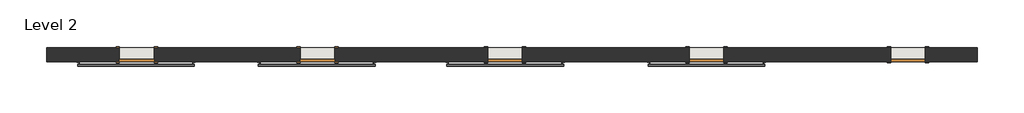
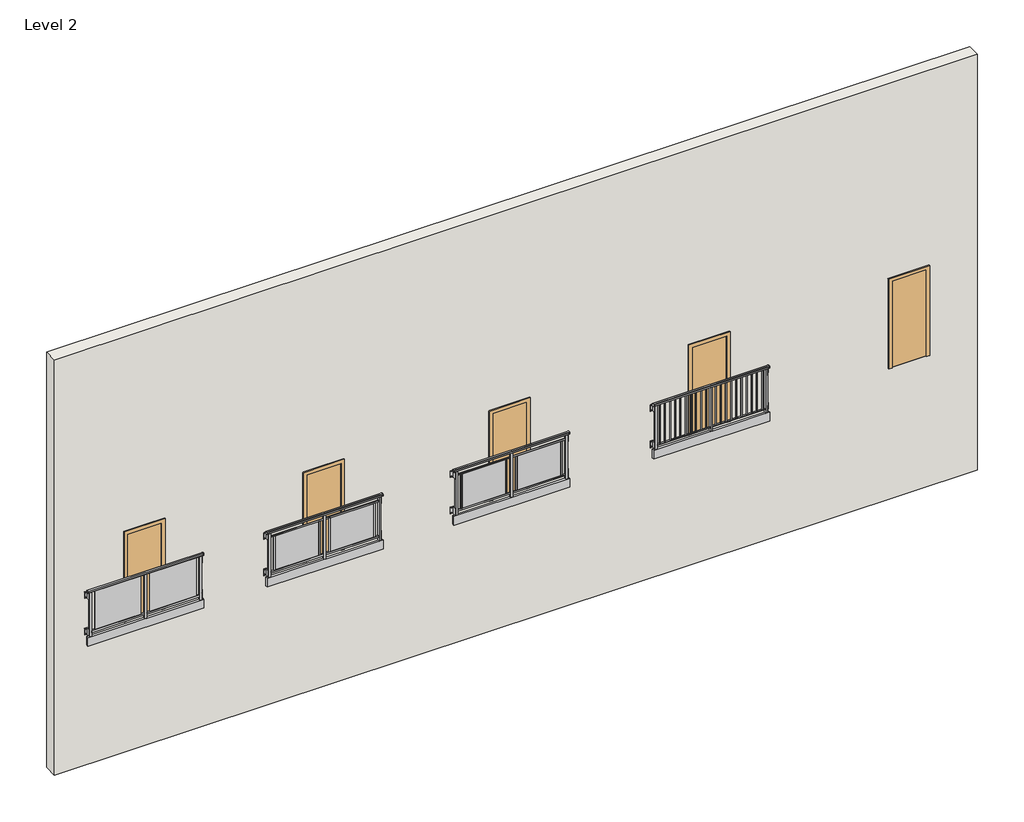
# One storey: 5 doors, 4 proxies, 1 wall.
"""IFC4 building model written with IfcOpenShell, lengths in millimetres."""

from ifc_helpers import new_model, si_unit, frame, origin, place, context, project, spatial, polyline, outline, extrude, transform, mapped, element, save
from components import specialty_equipment_3ed54365, glass_railing_28617125, perf_panel_railing_4f371f08, wire_mesh_panel_railing_0f272c87, door_d9178966

model = new_model("IFC4")

# Units and contexts
model_context = context("Model", 3, world=origin())
ifc_project = project(units=[si_unit("LENGTHUNIT", "METRE", prefix="MILLI")], contexts=[model_context])

# Site, building, storey
site = spatial("IfcSite", under=ifc_project)
building = spatial("IfcBuilding", under=site)
storey = spatial("IfcBuildingStorey", under=building, Name="Level 2", Elevation=0.0)

# Proxies
placement = place(None, origin())
specialty_equipment_shape = specialty_equipment_3ed54365(model_context)
element("IfcBuildingElementProxy", 1, Name="Specialty-Equipment_Endurable-Building-Products_Juliet-Balconies : Vertical Pickets Railing", ObjectType="Specialty-Equipment_Endurable-Building-Products_Juliet-Balconies : Vertical Pickets Railing", at=placement, inside=storey, context=model_context, shape_type="MappedRepresentation", body=[
    mapped(specialty_equipment_shape, transform((6083.9836065, 1732.6002498, 0.0), x_axis=(1.0, 0.0, 0.0), y_axis=(0.0, 1.0, 0.0), z_axis=(0.0, 0.0, 1.0))),
])
glass_railing_shape = glass_railing_28617125(model_context)
element("IfcBuildingElementProxy", 2, Name="Specialty-Equipment_Endurable-Building-Products_Juliet-Balconies : Glass Railing", ObjectType="Specialty-Equipment_Endurable-Building-Products_Juliet-Balconies : Glass Railing", at=placement, inside=storey, context=model_context, shape_type="MappedRepresentation", body=[
    mapped(glass_railing_shape, transform((-6431.5320602, 1732.6002498, 0.0), x_axis=(1.0, 0.0, 0.0), y_axis=(0.0, 1.0, 0.0), z_axis=(0.0, 0.0, 1.0))),
])
perf_panel_railing_shape = perf_panel_railing_4f371f08(model_context)
element("IfcBuildingElementProxy", 3, Name="Specialty-Equipment_Endurable-Building-Products_Juliet-Balconies : Perf Panel Railing", ObjectType="Specialty-Equipment_Endurable-Building-Products_Juliet-Balconies : Perf Panel Railing", at=placement, inside=storey, context=model_context, shape_type="MappedRepresentation", body=[
    mapped(perf_panel_railing_shape, transform((1664.3836065, 1732.6002498, 0.0), x_axis=(1.0, 0.0, 0.0), y_axis=(0.0, 1.0, 0.0), z_axis=(0.0, 0.0, 1.0))),
])
wire_mesh_panel_railing_shape = wire_mesh_panel_railing_0f272c87(model_context)
element("IfcBuildingElementProxy", 4, Name="Specialty-Equipment_Endurable-Building-Products_Juliet-Balconies : Wire Mesh Panel Railing", ObjectType="Specialty-Equipment_Endurable-Building-Products_Juliet-Balconies : Wire Mesh Panel Railing", at=placement, inside=storey, context=model_context, shape_type="MappedRepresentation", body=[
    mapped(wire_mesh_panel_railing_shape, transform((-2469.1320602, 1732.6002498, 0.0), x_axis=(1.0, 0.0, 0.0), y_axis=(0.0, 1.0, 0.0), z_axis=(0.0, 0.0, 1.0))),
])

# Doors
door_shape = door_d9178966(model_context)
element("IfcDoor", 5, ObjectType="Single-Flush : 30\" x 80\"", at=placement, inside=storey, context=model_context, shape_type="MappedRepresentation", body=[
    mapped(door_shape, transform((-6412.8163935, 1885.0002498, 19.05), x_axis=(1.0, 0.0, 0.0), y_axis=(0.0, 1.0, 0.0), z_axis=(0.0, 0.0, 1.0))),
])
element("IfcDoor", 6, ObjectType="Single-Flush : 30\" x 80\"", at=placement, inside=storey, context=model_context, shape_type="MappedRepresentation", body=[
    mapped(door_shape, transform((-2450.4163935, 1885.0002498, 19.05), x_axis=(1.0, 0.0, 0.0), y_axis=(0.0, 1.0, 0.0), z_axis=(0.0, 0.0, 1.0))),
])
element("IfcDoor", 7, ObjectType="Single-Flush : 30\" x 80\"", at=placement, inside=storey, context=model_context, shape_type="MappedRepresentation", body=[
    mapped(door_shape, transform((1664.3836065, 1885.0002498, 19.05), x_axis=(1.0, 0.0, 0.0), y_axis=(0.0, 1.0, 0.0), z_axis=(0.0, 0.0, 1.0))),
])
element("IfcDoor", 8, ObjectType="Single-Flush : 30\" x 80\"", at=placement, inside=storey, context=model_context, shape_type="MappedRepresentation", body=[
    mapped(door_shape, transform((6083.9836065, 1885.0002498, 19.05), x_axis=(1.0, 0.0, 0.0), y_axis=(0.0, 1.0, 0.0), z_axis=(0.0, 0.0, 1.0))),
])
element("IfcDoor", 9, ObjectType="Single-Flush : 30\" x 80\"", at=placement, inside=storey, context=model_context, shape_type="MappedRepresentation", body=[
    mapped(door_shape, transform((10503.5836065, 1885.0002498, 19.05), x_axis=(1.0, 0.0, 0.0), y_axis=(0.0, 1.0, 0.0), z_axis=(0.0, 0.0, 1.0))),
])

# Wall
element("IfcWall", 10, ObjectType="Generic - 12\"", at=placement, inside=storey, context=model_context, shape_type="SweptSolid", body=[
    extrude(outline(polyline([(-3048.0, -8394.0163935), (-3048.0, 12027.5836065), (6676.9504699, 12027.5836065), (6676.9504699, -8394.0163935), (-3048.0, -8394.0163935)]), holes=[polyline([(19.05, -6031.8163935), (19.05, -6793.8163935), (2051.05, -6793.8163935), (2051.05, -6031.8163935), (19.05, -6031.8163935)]), polyline([(19.05, -2069.4163935), (19.05, -2831.4163935), (2051.05, -2831.4163935), (2051.05, -2069.4163935), (19.05, -2069.4163935)]), polyline([(19.05, 2045.3836065), (19.05, 1283.3836065), (2051.05, 1283.3836065), (2051.05, 2045.3836065), (19.05, 2045.3836065)]), polyline([(19.05, 6464.9836065), (19.05, 5702.9836065), (2051.05, 5702.9836065), (2051.05, 6464.9836065), (19.05, 6464.9836065)]), polyline([(19.05, 10884.5836065), (19.05, 10122.5836065), (2051.05, 10122.5836065), (2051.05, 10884.5836065), (19.05, 10884.5836065)])]), frame((0.0, 1732.6002498, 0.0), z_axis=(0.0, 1.0, 0.0), x_axis=(0.0, 0.0, 1.0)), (0.0, 0.0, 1.0), 304.8),
])

save(model, "model.ifc")
